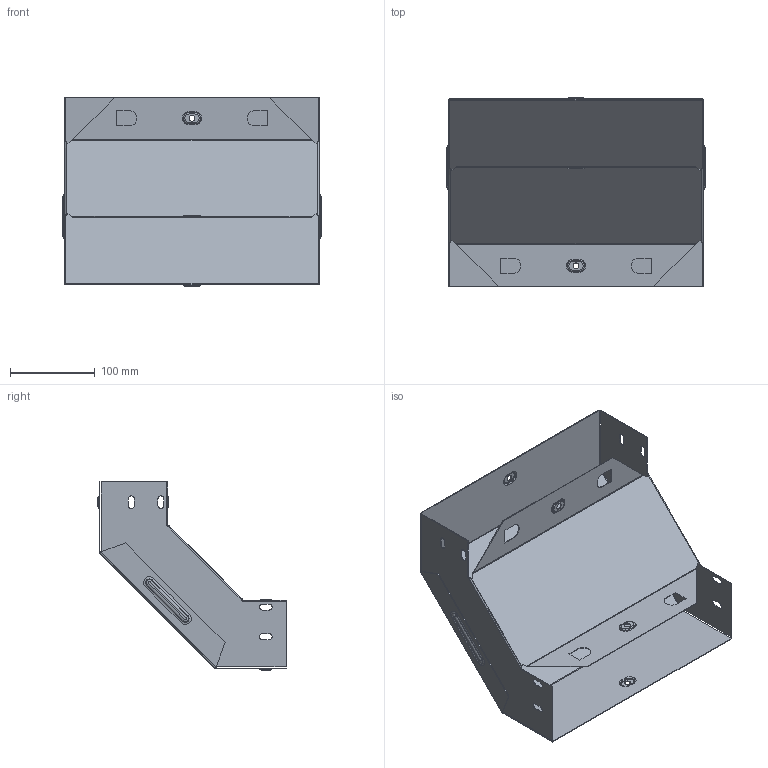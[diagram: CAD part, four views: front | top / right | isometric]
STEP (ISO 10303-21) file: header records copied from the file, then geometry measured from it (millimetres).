
FILE_DESCRIPTION (( 'STEP AP214' ), '1' );
FILE_NAME ('vo9080300_捘.STEP', '2019-06-10T09:08:08', ( '砐錪賧瘔蠈錪 Windows' ), ( '' ), 'SwSTEP 2.0', 'SolidWorks 2018', '' );
FILE_SCHEMA (( 'AUTOMOTIVE_DESIGN' ));
Length unit declared in the file: millimetre
Products named in the file (1): vo9080300_捘
Bounding box: 305.6 x 222.3 x 222.3 mm (x, y, z)
Volume: 178586.6 mm3; surface area: 449688.4 mm2
Topology: 2 solids, 2 shells, 296 faces, 708 edges, 432 vertices
Faces by surface type: cylinder 112, plane 112, torus 64, bspline 8
Entity records: 8803 total; most frequent: CARTESIAN_POINT 1685, DIRECTION 1558, ORIENTED_EDGE 1416, EDGE_CURVE 708, AXIS2_PLACEMENT_3D 593, VERTEX_POINT 432, VECTOR 372, LINE 372
